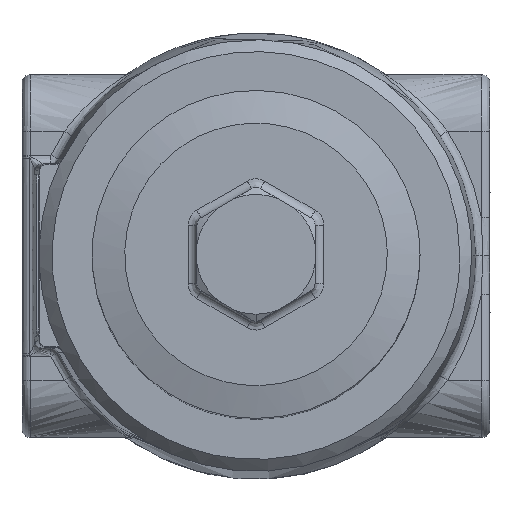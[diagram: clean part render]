
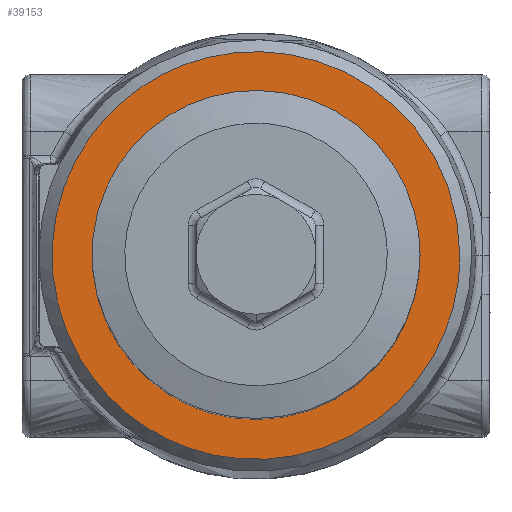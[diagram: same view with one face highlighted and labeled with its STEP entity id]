
A CAD part, top view. The second image highlights one B-rep face of the part: STEP entity #39153.
In plain terms, the highlighted free-form (B-spline) face has degree [1, 1] with [2, 2] control points.
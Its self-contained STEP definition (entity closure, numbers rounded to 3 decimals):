
#39095=CARTESIAN_POINT('V1787',(29.867,
   -3.957,66.0));
#39096=VERTEX_POINT('V1787',#39095);
#39097=CARTESIAN_POINT('E2806',(29.867,
   -3.957,66.0));
#39098=CARTESIAN_POINT('E2806',(29.867,
   60.995,66.0));
#39099=CARTESIAN_POINT('E2806',(-26.383,
   28.519,66.0));
#39100=CARTESIAN_POINT('E2806',(-82.633,
   -3.957,66.0));
#39101=CARTESIAN_POINT('E2806',(-26.383,
   -36.433,66.0));
#39102=CARTESIAN_POINT('E2806',(29.867,
   -68.909,66.0));
#39103=CARTESIAN_POINT('E2806',(29.867,
   -3.957,66.0));
#39111=(BOUNDED_CURVE()B_SPLINE_CURVE(2,(#39097,#39098,#39099,
   #39100,#39101,#39102,#39103),.CIRCULAR_ARC.,.T.,.U.)
   B_SPLINE_CURVE_WITH_KNOTS((3,2,2,3),(0.0,0.333,
   0.667,1.0),.UNSPECIFIED.)CURVE()
   GEOMETRIC_REPRESENTATION_ITEM()RATIONAL_B_SPLINE_CURVE((1.0,
   0.5,1.0,0.5,1.0,0.5,1.0)
   )REPRESENTATION_ITEM('E2806'));
#39112=EDGE_CURVE('E2806',#39096,#39096,#39111,.T.);
#39124=CARTESIAN_POINT('F1030',(-58.908,
   47.318,66.0));
#39125=CARTESIAN_POINT('F1030',(43.642,
   47.318,66.0));
#39126=CARTESIAN_POINT('F1030',(-58.908,
   -55.232,66.0));
#39127=CARTESIAN_POINT('F1030',(43.642,
   -55.232,66.0));
#39128=QUASI_UNIFORM_SURFACE('F1030',1,1,((#39124,#39126),(#39125,
   #39127)),.PLANE_SURF.,.F.,.F.,.U.);
#39129=CARTESIAN_POINT('V1381',(38.98,
   -3.957,66.0));
#39130=VERTEX_POINT('V1381',#39129);
#39131=CARTESIAN_POINT('E2078',(38.98,
   -3.957,66.0));
#39132=CARTESIAN_POINT('E2078',(38.98,
   76.78,66.0));
#39133=CARTESIAN_POINT('E2078',(-30.94,
   36.411,66.0));
#39134=CARTESIAN_POINT('E2078',(-100.86,
   -3.957,66.0));
#39135=CARTESIAN_POINT('E2078',(-30.94,
   -44.325,66.0));
#39136=CARTESIAN_POINT('E2078',(38.98,
   -84.694,66.0));
#39137=CARTESIAN_POINT('E2078',(38.98,
   -3.957,66.0));
#39145=(BOUNDED_CURVE()B_SPLINE_CURVE(2,(#39131,#39132,#39133,
   #39134,#39135,#39136,#39137),.CIRCULAR_ARC.,.T.,.U.)
   B_SPLINE_CURVE_WITH_KNOTS((3,2,2,3),(0.0,39.284,
   78.569,117.853),.UNSPECIFIED.)CURVE()
   GEOMETRIC_REPRESENTATION_ITEM()RATIONAL_B_SPLINE_CURVE((1.0,
   0.5,1.0,0.5,1.0,0.5,1.0)
   )REPRESENTATION_ITEM('E2078'));
#39146=EDGE_CURVE('E2078',#39130,#39130,#39145,.T.);
#39147=ORIENTED_EDGE('E2078',*,*,#39146,.T.);
#39148=EDGE_LOOP('F1030',(#39147));
#39149=FACE_OUTER_BOUND('F1030',#39148,.T.);
#39150=ORIENTED_EDGE('E2806',*,*,#39112,.F.);
#39151=EDGE_LOOP('F1030',(#39150));
#39152=FACE_BOUND('F1030',#39151,.T.);
#39153=ADVANCED_FACE('F1030',(#39149,#39152),#39128,.F.);
